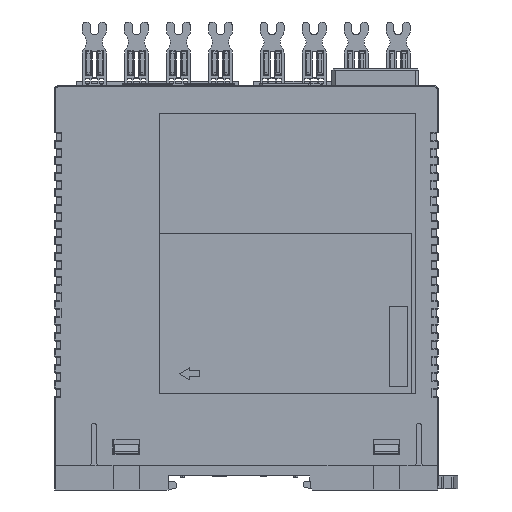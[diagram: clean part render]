
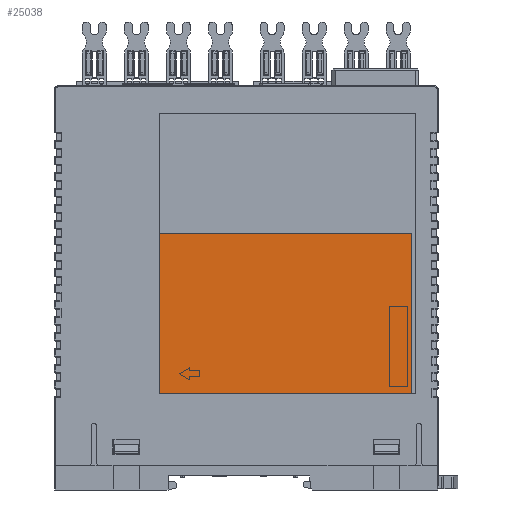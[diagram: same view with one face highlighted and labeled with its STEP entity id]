
A CAD part, left-side view. The second image highlights one B-rep face of the part: STEP entity #25038.
In plain terms, the highlighted planar face has unit normal (-1, 0, 0).
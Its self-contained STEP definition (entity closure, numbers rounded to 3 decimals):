
#309 = EDGE_CURVE ( 'NONE', #184165, #119354, #527, .T. ) ;
#527 = LINE ( 'NONE', #182622, #98926 ) ;
#7777 = ORIENTED_EDGE ( 'NONE', *, *, #54117, .F. ) ;
#9878 = DIRECTION ( 'NONE',  ( 1., 0., 0. ) ) ;
#13005 = VERTEX_POINT ( 'NONE', #219892 ) ;
#21242 = LINE ( 'NONE', #154173, #119503 ) ;
#25038 = ADVANCED_FACE ( 'NONE', ( #114955 ), #107754, .F. ) ;
#54117 = EDGE_CURVE ( 'NONE', #13005, #171629, #125332, .T. ) ;
#54776 = AXIS2_PLACEMENT_3D ( 'NONE', #127481, #9878, #147349 ) ;
#55729 = ORIENTED_EDGE ( 'NONE', *, *, #185013, .F. ) ;
#73735 = DIRECTION ( 'NONE',  ( 0., 0., -1. ) ) ;
#96867 = EDGE_LOOP ( 'NONE', ( #7777, #55729, #212260, #209970 ) ) ;
#98926 = VECTOR ( 'NONE', #162855, 1000. ) ;
#100351 = EDGE_CURVE ( 'NONE', #171629, #184165, #21242, .T. ) ;
#101679 = CARTESIAN_POINT ( 'NONE',  ( -24.73, 21.6, 58. ) ) ;
#107754 = PLANE ( 'NONE',  #54776 ) ;
#114955 = FACE_OUTER_BOUND ( 'NONE', #96867, .T. ) ;
#119354 = VERTEX_POINT ( 'NONE', #223595 ) ;
#119503 = VECTOR ( 'NONE', #233238, 1000. ) ;
#125332 = LINE ( 'NONE', #245844, #165377 ) ;
#127481 = CARTESIAN_POINT ( 'NONE',  ( -24.73, -41.4, 18. ) ) ;
#147349 = DIRECTION ( 'NONE',  ( 0., 0., -1. ) ) ;
#154173 = CARTESIAN_POINT ( 'NONE',  ( -24.73, 21.6, 58. ) ) ;
#154788 = LINE ( 'NONE', #211294, #253206 ) ;
#162855 = DIRECTION ( 'NONE',  ( 0., -1., 0. ) ) ;
#165377 = VECTOR ( 'NONE', #208011, 1000. ) ;
#171629 = VERTEX_POINT ( 'NONE', #203401 ) ;
#182622 = CARTESIAN_POINT ( 'NONE',  ( -24.73, 21.6, 58. ) ) ;
#184165 = VERTEX_POINT ( 'NONE', #101679 ) ;
#185013 = EDGE_CURVE ( 'NONE', #119354, #13005, #154788, .T. ) ;
#203401 = CARTESIAN_POINT ( 'NONE',  ( -24.73, 21.6, 18. ) ) ;
#208011 = DIRECTION ( 'NONE',  ( 0., 1., 0. ) ) ;
#209970 = ORIENTED_EDGE ( 'NONE', *, *, #100351, .F. ) ;
#211294 = CARTESIAN_POINT ( 'NONE',  ( -24.73, -41.4, 58. ) ) ;
#212260 = ORIENTED_EDGE ( 'NONE', *, *, #309, .F. ) ;
#219892 = CARTESIAN_POINT ( 'NONE',  ( -24.73, -41.4, 18. ) ) ;
#223595 = CARTESIAN_POINT ( 'NONE',  ( -24.73, -41.4, 58. ) ) ;
#233238 = DIRECTION ( 'NONE',  ( 0., 0., 1. ) ) ;
#245844 = CARTESIAN_POINT ( 'NONE',  ( -24.73, 21.6, 18. ) ) ;
#253206 = VECTOR ( 'NONE', #73735, 1000. ) ;
